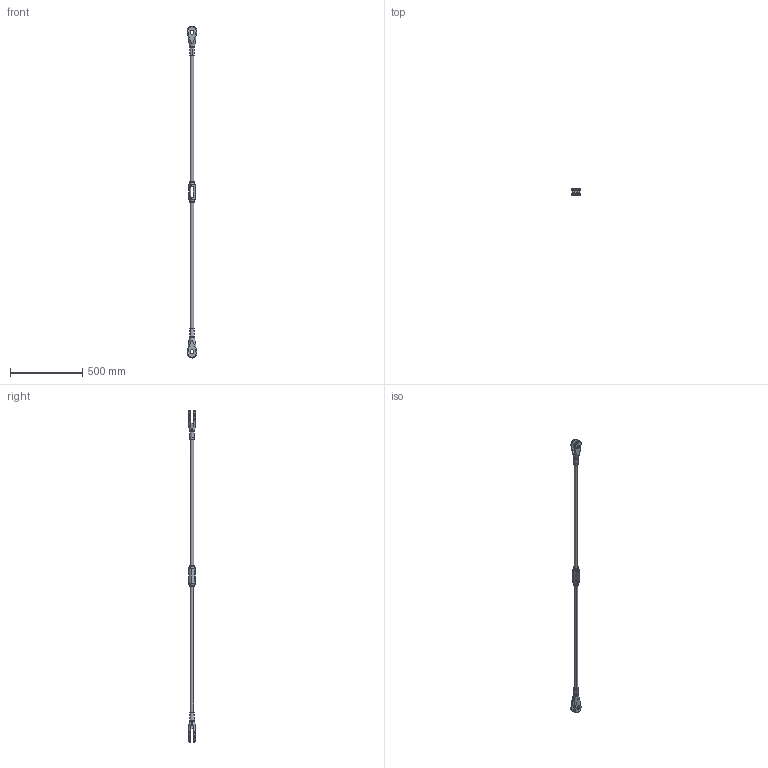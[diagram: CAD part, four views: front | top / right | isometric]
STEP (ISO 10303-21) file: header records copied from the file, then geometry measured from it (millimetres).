
FILE_DESCRIPTION (( 'STEP AP214' ), '1' );
FILE_NAME ('M24 G+AB+K.STEP', '2018-01-18T13:54:12', ( 'install' ), ( 'Hewlett-Packard Company' ), 'SwSTEP 2.0', 'SolidWorks 2017', '' );
FILE_SCHEMA (( 'AUTOMOTIVE_DESIGN' ));
Length unit declared in the file: millimetre
Products named in the file (5): Zugstab_M24; Kreuzmuffe_M24; Abdeckhülse_generisch_M24; Gabelkopf Kunde_M24; M24 G+AB+K
Assembly tree (7 placements, depth 2):
  M24 G+AB+K
    Gabelkopf Kunde_M24  x2
    Abdeckhülse_generisch_M24  x2
    Kreuzmuffe_M24
    Zugstab_M24  x2
Bounding box: 65.97 x 45.99 x 2295 mm (x, y, z)
Volume: 1343474.7 mm3; surface area: 279108 mm2
Topology: 7 solids, 7 shells, 249 faces, 638 edges, 391 vertices
Faces by surface type: cylinder 124, plane 54, cone 30, torus 27, bspline 14
Entity records: 9949 total; most frequent: CARTESIAN_POINT 6047, ORIENTED_EDGE 846, DIRECTION 720, EDGE_CURVE 423, AXIS2_PLACEMENT_3D 297, VERTEX_POINT 259, EDGE_LOOP 180, FACE_OUTER_BOUND 163
